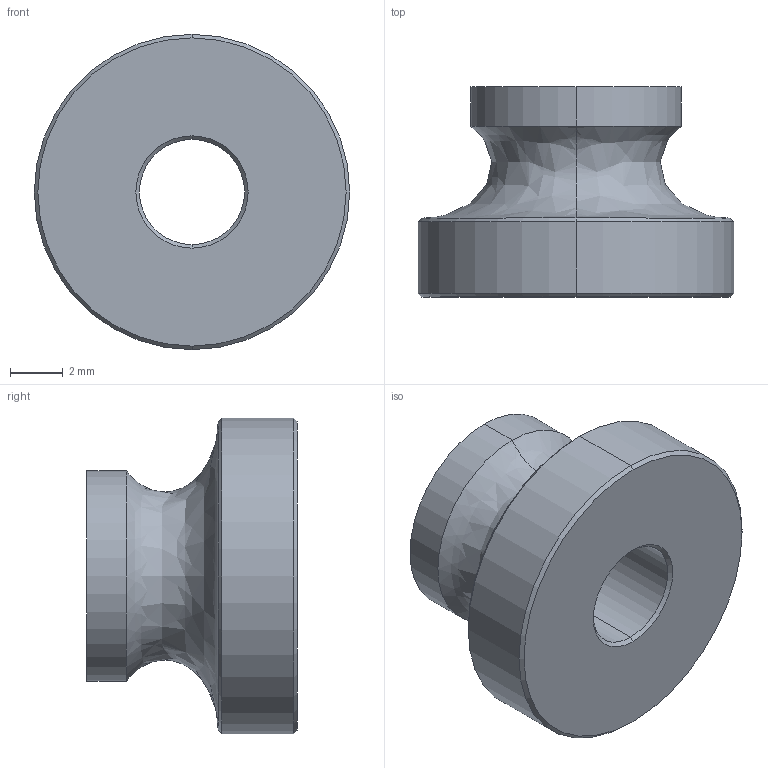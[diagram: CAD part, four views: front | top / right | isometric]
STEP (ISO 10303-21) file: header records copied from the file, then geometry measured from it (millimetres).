
FILE_DESCRIPTION (( 'STEP AP214' ), '1' );
FILE_NAME ('143004.STEP', '2023-10-10T06:25:33', ( '' ), ( '' ), 'SwSTEP 2.0', 'SolidWorks 2022', '' );
FILE_SCHEMA (( 'AUTOMOTIVE_DESIGN' ));
Length unit declared in the file: millimetre
Products named in the file (1): 143004
Bounding box: 12 x 8 x 12 mm (x, y, z)
Volume: 452.3 mm3; surface area: 525.6 mm2
Topology: 1 solids, 1 shells, 22 faces, 44 edges, 24 vertices
Faces by surface type: cone 10, cylinder 8, bspline 2, plane 2
Entity records: 624 total; most frequent: CARTESIAN_POINT 127, DIRECTION 108, ORIENTED_EDGE 88, AXIS2_PLACEMENT_3D 45, EDGE_CURVE 44, VERTEX_POINT 24, EDGE_LOOP 24, CIRCLE 24
